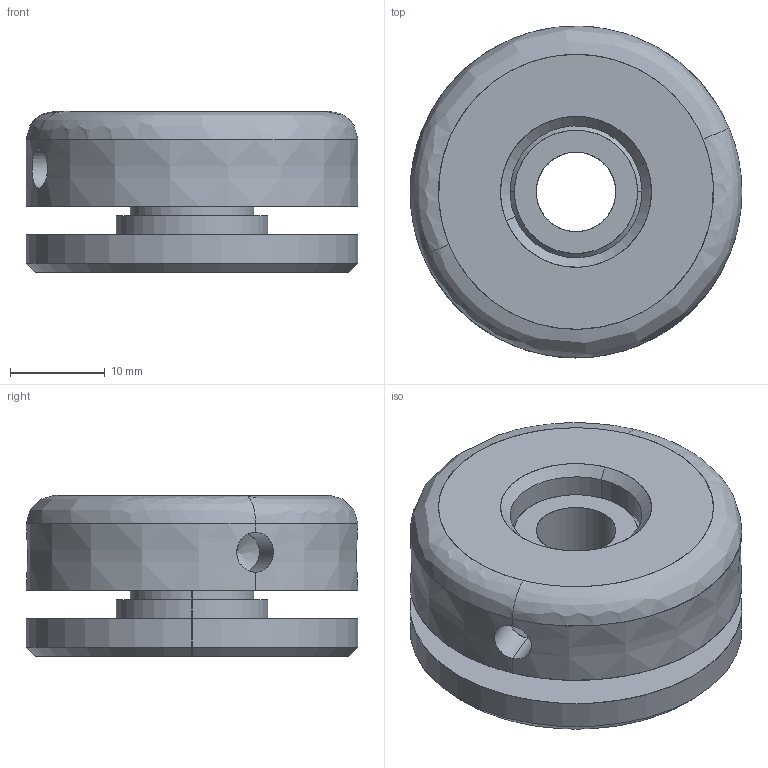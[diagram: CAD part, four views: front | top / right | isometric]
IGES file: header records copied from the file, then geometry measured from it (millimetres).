
Start section: SolidWorks IGES file using analytic representation for surfaces
Global section: file name: R:\Inventor\Kundmodeller Solidworks\Chuckar\041J000010 Saw blade holder Ø16 mm.IGS; native system: SolidWorks 2008; preprocessor: SolidWorks 2008; author: Johan; date: 090903.153908; units: millimetre
Bounding box: 35 x 35 x 17 mm (x, y, z)
Surface area: 6199 mm2 (no closed solid volume)
Topology: 0 solids, 0 shells, 48 faces, 824 edges, 822 vertices
Faces by surface type: revolution 34, bspline 14
